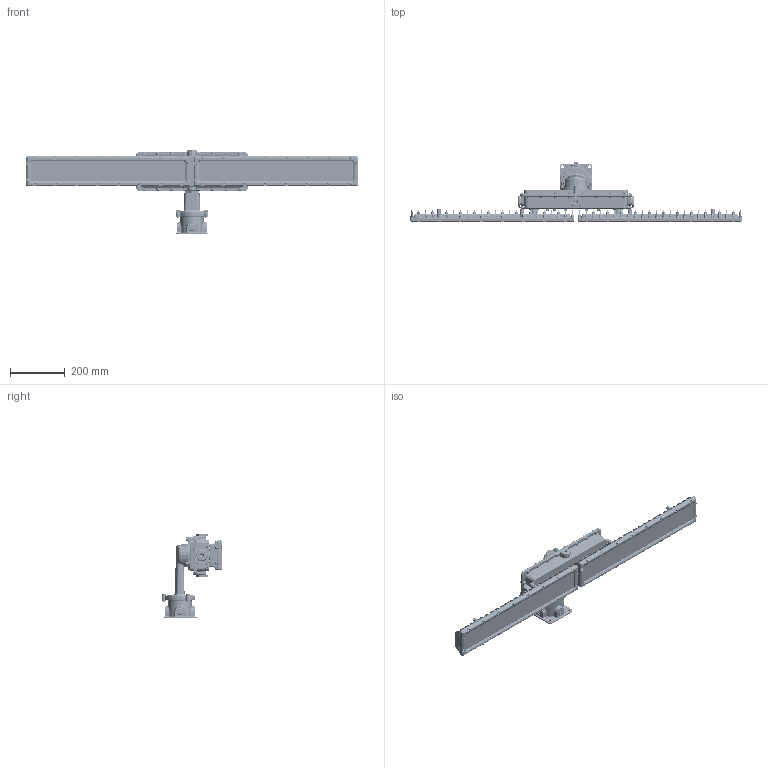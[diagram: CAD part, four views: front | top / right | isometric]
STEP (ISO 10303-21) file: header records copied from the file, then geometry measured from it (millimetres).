
FILE_DESCRIPTION (( 'STEP AP214' ), '1' );
FILE_NAME ('HAL-LC-48-WLM.STEP', '2021-05-19T17:06:31', ( '' ), ( '' ), 'SwSTEP 2.0', 'SolidWorks 2020', '' );
FILE_SCHEMA (( 'AUTOMOTIVE_DESIGN' ));
Length unit declared in the file: inch
Products named in the file (24): T4_1; Wall Mount; LED BODY; 腑极躇猾菜; M8蹟邡 -b; 揤盄蹟譫; M8蹟邡; O形圈D78xD2p5; M121鞠褒蹟恇奪; T2_1; HAL-LC-48-WLM; glass; LED PCB-2F; M5X12; T3_1; 毀扞欶; M3x6; glass cover; T1_1; Ceiling Mount; 黑芛-B
Assembly tree (136 placements, depth 4):
  HAL-LC-48-WLM
    T1_1
      T2_1
        T2_1
        T3_1
        M5X12  x20
        黑芛-B  x4
        揤盄蹟譫
      揤盄蹟譫
      M5X12  x2
    M121鞠褒蹟恇奪
    揤盄蹟譫
    LED BODY
      T4_1
      glass
      glass cover
      M5X12  x20
      LED PCB-2F
      毀扞欶
      M3x6  x17
      腑极躇猾菜
    LED BODY
      T4_1
      glass
      glass cover
      M5X12  x20
      LED PCB-2F
      毀扞欶
      M3x6  x17
      腑极躇猾菜
    M5X12  x4
    Wall Mount
      Wall Mount
      Ceiling Mount
      O形圈D78xD2p5
      M8蹟邡  x3
      M8蹟邡 -b  x3
Bounding box: 1212 x 221.1 x 309.5 mm (x, y, z)
Volume: 5793069.8 mm3; surface area: 1808908.2 mm2
Topology: 131 solids, 131 shells, 25808 faces, 69235 edges, 44349 vertices
Faces by surface type: plane 13944, cylinder 6163, bspline 5283, cone 418
Entity records: 365272 total; most frequent: CARTESIAN_POINT 227279, ORIENTED_EDGE 32048, DIRECTION 23402, EDGE_CURVE 16024, VERTEX_POINT 9699, AXIS2_PLACEMENT_3D 8599, EDGE_LOOP 7149, FACE_OUTER_BOUND 6652
